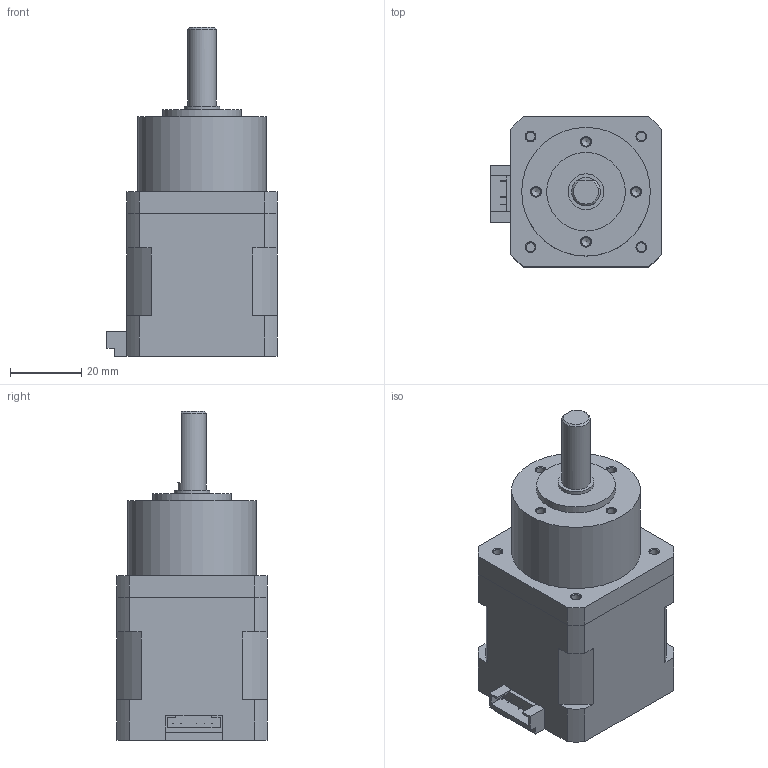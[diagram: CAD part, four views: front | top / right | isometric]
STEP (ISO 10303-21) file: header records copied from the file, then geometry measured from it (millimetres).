
FILE_DESCRIPTION(/* description */ (''),/* implementation_level */ '2;1');
FILE_NAME(/* name */ 'JK42HS40-1204DJXE5.18.step',/* time_stamp */ '2019-11-01T09:27:14+08:00',/* author */ (''),/* organization */ (''),/* preprocessor_version */ 'ST-DEVELOPER v14',/* originating_system */ 'SIEMENS PLM Software NX 8.0',/* authorisation */ '');
FILE_SCHEMA (('AUTOMOTIVE_DESIGN { 1 0 10303 214 3 1 1 1 }'));
Length unit declared in the file: millimetre
Products named in the file (4): dianjizhuti; M3-luoding; 42HS40-1204DJXE5.18; _asm1
Assembly tree (6 placements, depth 3):
  _asm1
    M3-luoding  x4
    42HS40-1204DJXE5.18
      dianjizhuti
Bounding box: 47.6 x 42 x 92.11 mm (x, y, z)
Volume: 101808.4 mm3; surface area: 23132.1 mm2
Topology: 19 solids, 19 shells, 276 faces, 667 edges, 433 vertices
Faces by surface type: plane 142, cylinder 61, cone 49, torus 20, sphere 4
Full cylindrical faces by diameter (mm): 0.2 x5, 2.458 x4, 2.459 x4, 2.5 x8, 2.675 x4, 3 x4, 3.5 x4, 5.45 x4, 6 x4, 8 x1, 10 x1, 22 x1, 36 x1
Entity records: 4532 total; most frequent: CARTESIAN_POINT 938, DIRECTION 734, ORIENTED_EDGE 604, EDGE_CURVE 302, AXIS2_PLACEMENT_3D 301, EDGE_LOOP 231, VERTEX_POINT 230, ADVANCED_FACE 162
